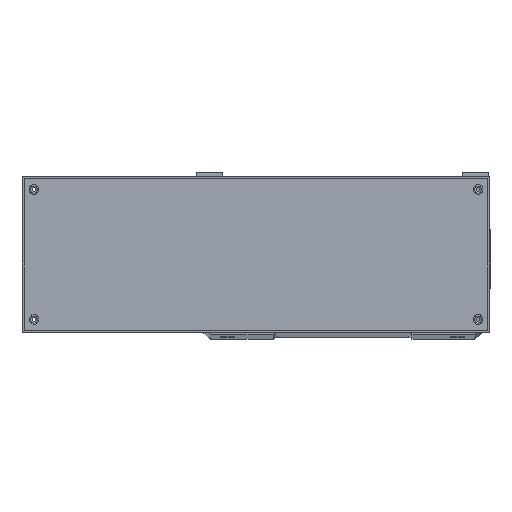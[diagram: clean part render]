
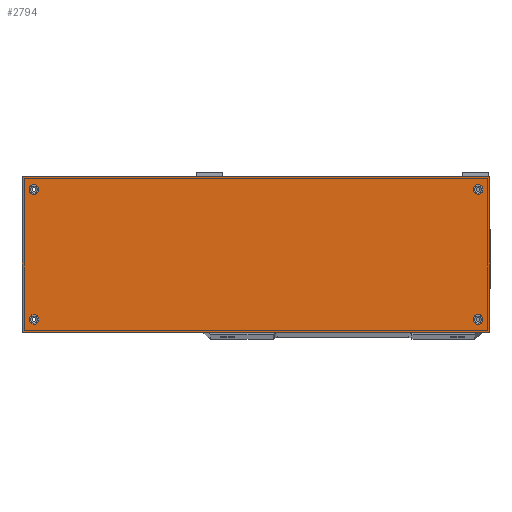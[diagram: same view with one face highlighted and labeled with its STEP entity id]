
A CAD part, top view. The second image highlights one B-rep face of the part: STEP entity #2794.
In plain terms, the highlighted planar face has unit normal (0, 0, 1).
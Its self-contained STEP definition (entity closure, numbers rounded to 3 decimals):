
#970=FACE_BOUND('',#4793,.T.);
#971=FACE_BOUND('',#4794,.T.);
#972=FACE_BOUND('',#4795,.T.);
#973=FACE_BOUND('',#4796,.T.);
#974=FACE_BOUND('',#4797,.T.);
#2088=CIRCLE('',#17055,2.25);
#2090=CIRCLE('',#17058,2.25);
#2092=CIRCLE('',#17061,2.25);
#2094=CIRCLE('',#17064,2.25);
#2794=ADVANCED_FACE('',(#970,#971,#972,#973,#974),#3561,.F.);
#3561=PLANE('',#17070);
#4793=EDGE_LOOP('',(#7427));
#4794=EDGE_LOOP('',(#7428));
#4795=EDGE_LOOP('',(#7429));
#4796=EDGE_LOOP('',(#7430));
#4797=EDGE_LOOP('',(#7431,#7432,#7433,#7434));
#7427=ORIENTED_EDGE('',*,*,#12996,.F.);
#7428=ORIENTED_EDGE('',*,*,#12998,.F.);
#7429=ORIENTED_EDGE('',*,*,#13000,.F.);
#7430=ORIENTED_EDGE('',*,*,#13002,.F.);
#7431=ORIENTED_EDGE('',*,*,#12761,.F.);
#7432=ORIENTED_EDGE('',*,*,#13012,.F.);
#7433=ORIENTED_EDGE('',*,*,#13003,.F.);
#7434=ORIENTED_EDGE('',*,*,#12780,.F.);
#10942=VERTEX_POINT('',#25654);
#10943=VERTEX_POINT('',#25656);
#10954=VERTEX_POINT('',#25689);
#11100=VERTEX_POINT('',#26579);
#11102=VERTEX_POINT('',#26584);
#11104=VERTEX_POINT('',#26589);
#11106=VERTEX_POINT('',#26594);
#11107=VERTEX_POINT('',#26597);
#12761=EDGE_CURVE('',#10942,#10943,#14567,.T.);
#12780=EDGE_CURVE('',#10943,#10954,#14584,.T.);
#12996=EDGE_CURVE('',#11100,#11100,#2088,.T.);
#12998=EDGE_CURVE('',#11102,#11102,#2090,.T.);
#13000=EDGE_CURVE('',#11104,#11104,#2092,.T.);
#13002=EDGE_CURVE('',#11106,#11106,#2094,.T.);
#13003=EDGE_CURVE('',#10954,#11107,#14693,.T.);
#13012=EDGE_CURVE('',#11107,#10942,#14700,.T.);
#14567=LINE('',#25655,#15707);
#14584=LINE('',#25688,#15724);
#14693=LINE('',#26596,#15833);
#14700=LINE('',#26613,#15840);
#15707=VECTOR('',#19638,1.);
#15724=VECTOR('',#19665,1.);
#15833=VECTOR('',#20116,1.);
#15840=VECTOR('',#20129,1.);
#17055=AXIS2_PLACEMENT_3D('',#26578,#20094,#20095);
#17058=AXIS2_PLACEMENT_3D('',#26583,#20100,#20101);
#17061=AXIS2_PLACEMENT_3D('',#26588,#20106,#20107);
#17064=AXIS2_PLACEMENT_3D('',#26593,#20112,#20113);
#17070=AXIS2_PLACEMENT_3D('',#26620,#20135,#20136);
#19638=DIRECTION('',(0.,-1.,0.));
#19665=DIRECTION('',(-1.,0.,0.));
#20094=DIRECTION('',(0.,0.,1.));
#20095=DIRECTION('',(-1.,0.,0.));
#20100=DIRECTION('',(0.,0.,1.));
#20101=DIRECTION('',(1.,0.,0.));
#20106=DIRECTION('',(0.,0.,1.));
#20107=DIRECTION('',(-1.,0.,0.));
#20112=DIRECTION('',(0.,0.,1.));
#20113=DIRECTION('',(1.,0.,0.));
#20116=DIRECTION('',(0.,1.,0.));
#20129=DIRECTION('',(1.,0.,0.));
#20135=DIRECTION('',(0.,0.,-1.));
#20136=DIRECTION('',(-1.,0.,0.));
#25654=CARTESIAN_POINT('',(68.,72.,193.));
#25655=CARTESIAN_POINT('',(68.,72.,193.));
#25656=CARTESIAN_POINT('',(68.,0.,193.));
#25688=CARTESIAN_POINT('',(68.,0.,193.));
#25689=CARTESIAN_POINT('',(-148.,0.,193.));
#26578=CARTESIAN_POINT('',(-142.5,6.,193.));
#26579=CARTESIAN_POINT('',(-144.75,6.,193.));
#26583=CARTESIAN_POINT('',(62.5,6.,193.));
#26584=CARTESIAN_POINT('',(64.75,6.,193.));
#26588=CARTESIAN_POINT('',(62.5,66.,193.));
#26589=CARTESIAN_POINT('',(60.25,66.,193.));
#26593=CARTESIAN_POINT('',(-142.5,66.,193.));
#26594=CARTESIAN_POINT('',(-140.25,66.,193.));
#26596=CARTESIAN_POINT('',(-148.,72.,193.));
#26597=CARTESIAN_POINT('',(-148.,72.,193.));
#26613=CARTESIAN_POINT('',(68.,72.,193.));
#26620=CARTESIAN_POINT('',(-40.,36.,193.));
